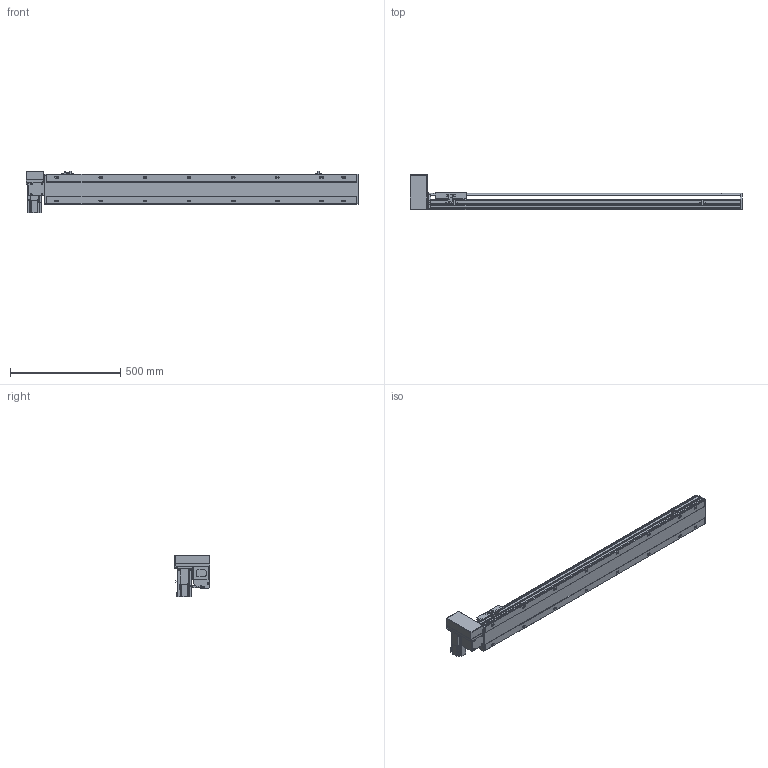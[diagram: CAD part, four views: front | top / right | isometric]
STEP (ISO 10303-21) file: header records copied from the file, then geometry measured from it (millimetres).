
FILE_DESCRIPTION( ( 'STEP AP214' ), '1' );
FILE_NAME( 'x:/temp/worker_4/temp/exporttempdir_2248_105_bDKrY/format_0/PBS140-P40-S1150-RU-T40-C1-N(0).stp', '2022-06-07T05:54:37', ( 'License CC BY-ND 4.0' ), ( 'CADENAS' ), ' ', 'PARTsolutions', ' ' );
FILE_SCHEMA( ( 'AUTOMOTIVE_DESIGN { 1 0 10303 214 1 1 1 1 }' ) );
Length unit declared in the file: millimetre
Products named in the file (7): PBS140-P40-S1150-RU-T40-C1-N(0); _PBS140-S1150()_body; _PBS140T-RU_motors; _T40-p1; _PBS140_sliser; _PBS140_plant; _PBS140_sensor
Assembly tree (8 placements, depth 2):
  PBS140-P40-S1150-RU-T40-C1-N(0)
    _PBS140-S1150()_body
    _PBS140T-RU_motors
    _T40-p1
    _PBS140_sliser
    _PBS140_plant
    _PBS140_sensor  x3
Bounding box: 1504 x 162.5 x 189.7 mm (x, y, z)
Volume: 7141114.9 mm3; surface area: 1243959.8 mm2
Topology: 8 solids, 8 shells, 1075 faces, 2836 edges, 1853 vertices
Faces by surface type: plane 692, cylinder 331, cone 42, sphere 8, torus 2
Full cylindrical faces by diameter (mm): 3.242 x4, 4 x2, 4.134 x4, 4.4 x8, 4.5 x2, 4.8 x4, 4.917 x24, 5.5 x7, 6 x2, 7 x18, 7.5 x8, 8 x12, 8.5 x4, 10.5 x16, 14 x1, 30 x2, 50 x2
Entity records: 39289 total; most frequent: CARTESIAN_POINT 6251, DIRECTION 5197, ORIENTED_EDGE 4912, EDGE_CURVE 2456, AXIS2_PLACEMENT_3D 1807, VERTEX_POINT 1701, LINE 1583, VECTOR 1583
